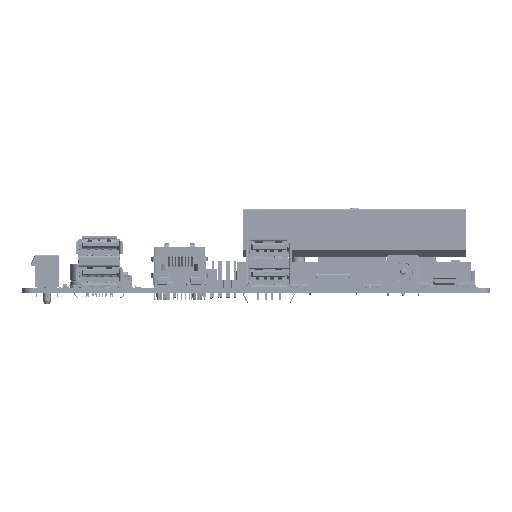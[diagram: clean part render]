
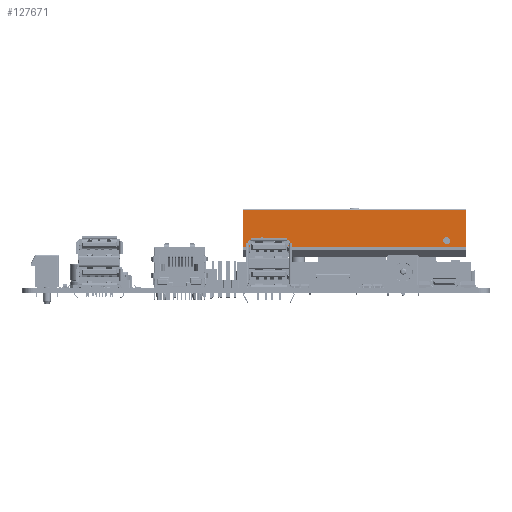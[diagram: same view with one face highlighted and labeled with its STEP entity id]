
A CAD part, front view. The second image highlights one B-rep face of the part: STEP entity #127671.
In plain terms, the highlighted planar face has unit normal (0, -1, 0) as drawn and (0, 1, 0) by its records, which use the part's own axes.
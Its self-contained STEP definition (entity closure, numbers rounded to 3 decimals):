
#127671 = ADVANCED_FACE('',(#127672,#127706,#127717),#127728,.T.);
#127672 = FACE_BOUND('',#127673,.T.);
#127673 = EDGE_LOOP('',(#127674,#127684,#127692,#127700));
#127674 = ORIENTED_EDGE('',*,*,#127675,.F.);
#127675 = EDGE_CURVE('',#127676,#127678,#127680,.T.);
#127676 = VERTEX_POINT('',#127677);
#127677 = CARTESIAN_POINT('',(34.8,25.051,20.287));
#127678 = VERTEX_POINT('',#127679);
#127679 = CARTESIAN_POINT('',(-34.8,25.051,20.287)
  );
#127680 = LINE('',#127681,#127682);
#127681 = CARTESIAN_POINT('',(34.8,25.051,20.287));
#127682 = VECTOR('',#127683,1.);
#127683 = DIRECTION('',(-1.,0.,0.));
#127684 = ORIENTED_EDGE('',*,*,#127685,.F.);
#127685 = EDGE_CURVE('',#127686,#127676,#127688,.T.);
#127686 = VERTEX_POINT('',#127687);
#127687 = CARTESIAN_POINT('',(34.8,25.051,8.687));
#127688 = LINE('',#127689,#127690);
#127689 = CARTESIAN_POINT('',(34.8,25.051,8.687));
#127690 = VECTOR('',#127691,1.);
#127691 = DIRECTION('',(0.,0.,1.));
#127692 = ORIENTED_EDGE('',*,*,#127693,.F.);
#127693 = EDGE_CURVE('',#127694,#127686,#127696,.T.);
#127694 = VERTEX_POINT('',#127695);
#127695 = CARTESIAN_POINT('',(-34.8,25.051,8.687));
#127696 = LINE('',#127697,#127698);
#127697 = CARTESIAN_POINT('',(-34.8,25.051,8.687));
#127698 = VECTOR('',#127699,1.);
#127699 = DIRECTION('',(1.,0.,0.));
#127700 = ORIENTED_EDGE('',*,*,#127701,.T.);
#127701 = EDGE_CURVE('',#127694,#127678,#127702,.T.);
#127702 = LINE('',#127703,#127704);
#127703 = CARTESIAN_POINT('',(-34.8,25.051,8.687));
#127704 = VECTOR('',#127705,1.);
#127705 = DIRECTION('',(0.,0.,1.));
#127706 = FACE_BOUND('',#127707,.T.);
#127707 = EDGE_LOOP('',(#127708));
#127708 = ORIENTED_EDGE('',*,*,#127709,.T.);
#127709 = EDGE_CURVE('',#127710,#127710,#127712,.T.);
#127710 = VERTEX_POINT('',#127711);
#127711 = CARTESIAN_POINT('',(29.9,25.051,10.687));
#127712 = CIRCLE('',#127713,1.1);
#127713 = AXIS2_PLACEMENT_3D('',#127714,#127715,#127716);
#127714 = CARTESIAN_POINT('',(28.8,25.051,10.687));
#127715 = DIRECTION('',(0.,-1.,0.));
#127716 = DIRECTION('',(-1.,0.,0.));
#127717 = FACE_BOUND('',#127718,.T.);
#127718 = EDGE_LOOP('',(#127719));
#127719 = ORIENTED_EDGE('',*,*,#127720,.T.);
#127720 = EDGE_CURVE('',#127721,#127721,#127723,.T.);
#127721 = VERTEX_POINT('',#127722);
#127722 = CARTESIAN_POINT('',(-29.9,25.051,10.687)
  );
#127723 = CIRCLE('',#127724,1.1);
#127724 = AXIS2_PLACEMENT_3D('',#127725,#127726,#127727);
#127725 = CARTESIAN_POINT('',(-28.8,25.051,10.687)
  );
#127726 = DIRECTION('',(0.,-1.,0.));
#127727 = DIRECTION('',(1.,0.,0.));
#127728 = PLANE('',#127729);
#127729 = AXIS2_PLACEMENT_3D('',#127730,#127731,#127732);
#127730 = CARTESIAN_POINT('',(34.8,25.051,20.487));
#127731 = DIRECTION('',(0.,1.,0.));
#127732 = DIRECTION('',(1.,0.,0.));
